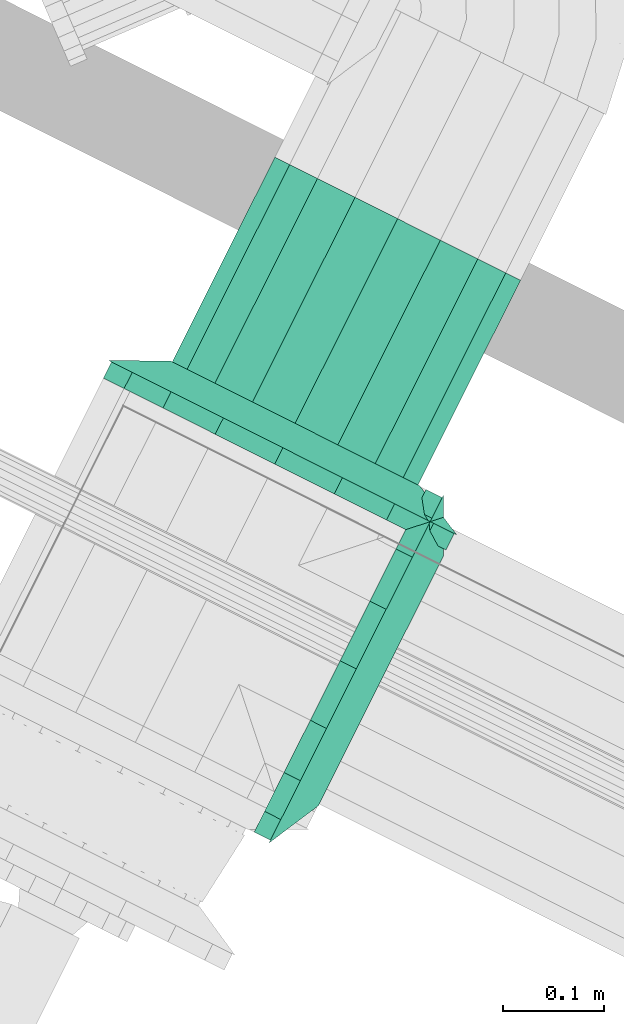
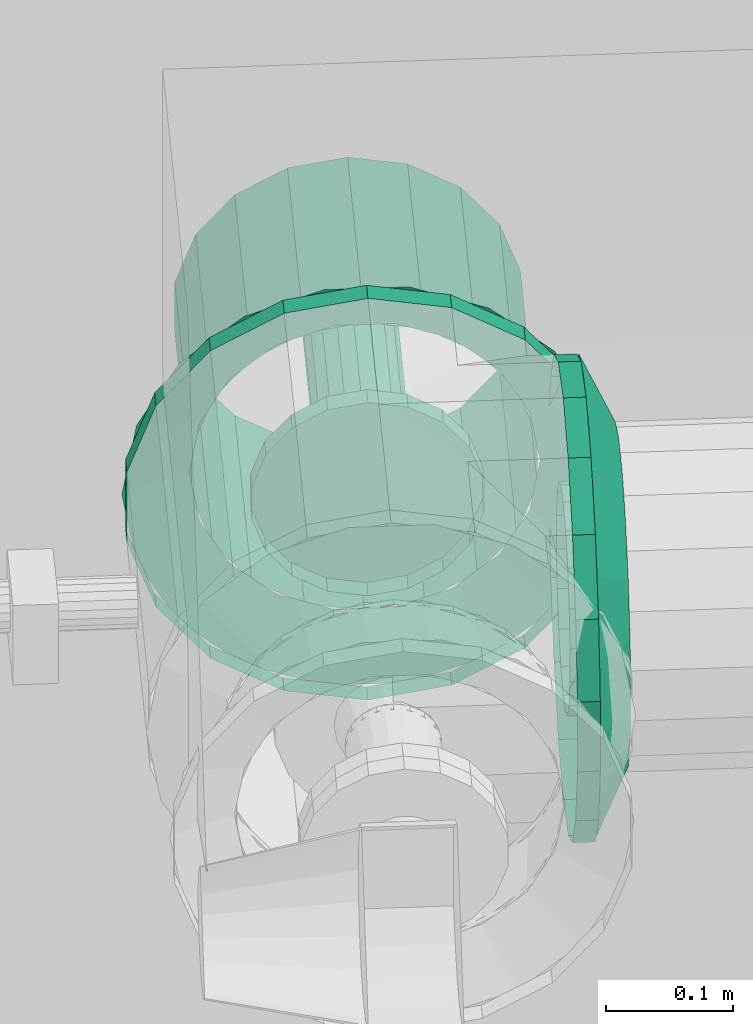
# One storey, part 150 of 206: 2 flow fittings, 1 flow segment.
"""IFC2X3 building model written with IfcOpenShell, lengths in metres."""

from ifc_helpers import new_model, si_unit, derived_unit, direction, frame, origin, place, context, subcontext, project, spatial, face_set, surface_model, source, transform, mapped, material, type_object, type_shapes, element, save


model = new_model("IFC2X3")

# Units and contexts
model_context = context("Model", 3, precision=5.2338327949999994e-05, world=origin(), true_north=direction((0.0, 1.0)))
body_context = subcontext(model_context, "Body", "Model", "MODEL_VIEW")
ifc_project = project(units=[si_unit("LENGTHUNIT", "METRE"), si_unit("AREAUNIT", "SQUARE_METRE"), si_unit("VOLUMEUNIT", "CUBIC_METRE"), si_unit("MASSUNIT", "GRAM", prefix="KILO"), si_unit("PLANEANGLEUNIT", "RADIAN"), derived_unit("THERMALTRANSMITTANCEUNIT", [(si_unit("MASSUNIT", "GRAM", prefix="KILO"), 1), (si_unit("THERMODYNAMICTEMPERATUREUNIT", "KELVIN"), -1), (si_unit("TIMEUNIT", "SECOND"), -3)])], contexts=[model_context])

# Site, building, storey
site_placement = place(None, frame((0.0, 0.0, 0.0), z_axis=(0.0, 0.0, 1.0), x_axis=(0.8939966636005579, -0.4480736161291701, 0.0)))
site = spatial("IfcSite", under=ifc_project, at=site_placement, Name="Default", CompositionType="ELEMENT")
building_placement = place(site_placement, origin())
building = spatial("IfcBuilding", under=site, at=building_placement, CompositionType="ELEMENT")
storey_placement = place(building_placement, origin())
storey = spatial("IfcBuildingStorey", under=building, at=storey_placement, Name="Erdgeschoss", CompositionType="ELEMENT", Elevation=0.0)

# Flow fittings
ifc_material = material(Name="IfcSurfaceStyle #1741")
distribution_element_type_1 = type_object("IfcDistributionElementType", Name="Flansch 326950:Flansch 326950", material=ifc_material)
shared_shape_1 = source(origin(), body_context, "Body", "SurfaceModel", [
    surface_model("IfcFaceBasedSurfaceModel", [(30.10512798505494, 9.70741948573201, 2.2215), (30.10512798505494, 9.739056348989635, 2.2270784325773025), (30.123127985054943, 9.739056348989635, 2.2270784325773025), (30.123127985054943, 9.70741948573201, 2.2215), (30.10512798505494, 9.766877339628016, 2.243140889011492), (30.123127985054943, 9.766877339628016, 2.243140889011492), (30.10512798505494, 9.787526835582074, 2.2677499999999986), (30.123127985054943, 9.787526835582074, 2.2677499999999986), (30.10512798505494, 9.798514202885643, 2.297937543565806), (30.123127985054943, 9.798514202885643, 2.297937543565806), (30.10512798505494, 9.798514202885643, 2.3300624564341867), (30.123127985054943, 9.798514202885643, 2.3300624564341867), (30.10512798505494, 9.787526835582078, 2.3602499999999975), (30.123127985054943, 9.787526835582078, 2.3602499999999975), (30.10512798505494, 9.76687733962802, 2.384859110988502), (30.123127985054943, 9.76687733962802, 2.384859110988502), (30.10512798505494, 9.73905634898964, 2.4009215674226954), (30.123127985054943, 9.73905634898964, 2.4009215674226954), (30.10512798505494, 9.707419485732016, 2.4065), (30.123127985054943, 9.707419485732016, 2.4065), (30.10512798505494, 9.675782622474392, 2.4009215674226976), (30.123127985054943, 9.675782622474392, 2.4009215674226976), (30.10512798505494, 9.647961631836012, 2.3848591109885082), (30.123127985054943, 9.647961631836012, 2.3848591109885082), (30.10512798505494, 9.627312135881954, 2.3602500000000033), (30.123127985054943, 9.627312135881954, 2.3602500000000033), (30.10512798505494, 9.616324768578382, 2.330062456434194), (30.123127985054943, 9.616324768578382, 2.330062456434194), (30.10512798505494, 9.616324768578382, 2.297937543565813), (30.123127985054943, 9.616324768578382, 2.297937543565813), (30.10512798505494, 9.627312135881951, 2.267750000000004), (30.123127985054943, 9.627312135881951, 2.267750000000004), (30.10512798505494, 9.647961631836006, 2.2431408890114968), (30.123127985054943, 9.647961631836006, 2.2431408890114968), (30.10512798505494, 9.675782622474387, 2.227078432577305), (30.123127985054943, 9.675782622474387, 2.227078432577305), (30.123127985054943, 9.707419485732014, 2.314), (30.123127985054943, 9.752419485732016, 2.313999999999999), (30.123127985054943, 9.749705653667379, 2.3293909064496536), (30.15012798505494, 9.743174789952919, 2.327013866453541), (30.15012798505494, 9.745469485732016, 2.3139999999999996), (30.123127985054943, 9.741891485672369, 2.3429254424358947), (30.15012798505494, 9.736567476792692, 2.338458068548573), (30.123127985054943, 9.729919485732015, 2.3529711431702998), (30.15012798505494, 9.726444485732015, 2.3469522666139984), (30.123127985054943, 9.715233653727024, 2.358316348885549), (30.15012798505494, 9.71402679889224, 2.3514719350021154), (30.123127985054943, 9.699605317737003, 2.3583163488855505), (30.15012798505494, 9.700812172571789, 2.351471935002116), (30.123127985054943, 9.684919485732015, 2.3529711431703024), (30.15012798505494, 9.688394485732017, 2.3469522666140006), (30.123127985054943, 9.672947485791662, 2.342925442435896), (30.15012798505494, 9.67827149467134, 2.3384580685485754), (30.123127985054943, 9.665133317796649, 2.329390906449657), (30.15012798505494, 9.67166418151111, 2.3270138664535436), (30.123127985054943, 9.662419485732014, 2.3140000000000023), (30.15012798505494, 9.669369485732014, 2.3140000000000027), (30.123127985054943, 9.665133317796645, 2.298609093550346), (30.15012798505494, 9.671664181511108, 2.30098613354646), (30.123127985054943, 9.67294748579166, 2.285074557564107), (30.15012798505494, 9.678271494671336, 2.2895419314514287), (30.123127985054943, 9.684919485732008, 2.2750288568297), (30.15012798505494, 9.68839448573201, 2.281047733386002), (30.123127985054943, 9.699605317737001, 2.269683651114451), (30.15012798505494, 9.700812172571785, 2.2765280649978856), (30.123127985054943, 9.715233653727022, 2.2696836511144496), (30.15012798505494, 9.714026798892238, 2.276528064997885), (30.123127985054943, 9.72991948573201, 2.2750288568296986), (30.15012798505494, 9.726444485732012, 2.2810477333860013), (30.123127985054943, 9.741891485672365, 2.285074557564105), (30.15012798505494, 9.736567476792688, 2.2895419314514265), (30.123127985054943, 9.749705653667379, 2.2986090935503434), (30.15012798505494, 9.743174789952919, 2.3009861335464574), (30.10512798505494, 9.707419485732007, 2.1215000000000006), (30.10512798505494, 9.7732583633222, 2.133109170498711), (30.123127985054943, 9.7732583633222, 2.133109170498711), (30.123127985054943, 9.707419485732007, 2.1215000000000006), (30.10512798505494, 9.831156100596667, 2.1665364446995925), (30.123127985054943, 9.831156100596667, 2.1665364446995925), (30.10512798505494, 9.874129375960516, 2.217749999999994), (30.123127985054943, 9.874129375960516, 2.217749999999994), (30.10512798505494, 9.896994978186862, 2.2805727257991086), (30.123127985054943, 9.896994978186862, 2.2805727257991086), (30.10512798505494, 9.896994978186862, 2.3474272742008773), (30.123127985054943, 9.896994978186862, 2.3474272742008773), (30.10512798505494, 9.874129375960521, 2.4102499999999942), (30.123127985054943, 9.874129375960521, 2.4102499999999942), (30.10512798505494, 9.83115610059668, 2.461463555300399), (30.123127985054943, 9.83115610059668, 2.461463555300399), (30.10512798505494, 9.77325836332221, 2.494890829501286), (30.123127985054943, 9.77325836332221, 2.494890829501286), (30.10512798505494, 9.70741948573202, 2.5065), (30.123127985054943, 9.70741948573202, 2.5065), (30.10512798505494, 9.64158060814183, 2.49489082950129), (30.123127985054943, 9.64158060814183, 2.49489082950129), (30.10512798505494, 9.583682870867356, 2.4614635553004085), (30.123127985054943, 9.583682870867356, 2.4614635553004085), (30.10512798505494, 9.54070959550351, 2.4102500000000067), (30.123127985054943, 9.54070959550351, 2.4102500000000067), (30.10512798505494, 9.517843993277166, 2.347427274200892), (30.123127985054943, 9.517843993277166, 2.347427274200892), (30.10512798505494, 9.51784399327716, 2.2805727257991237), (30.123127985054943, 9.51784399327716, 2.2805727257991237), (30.10512798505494, 9.540709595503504, 2.2177500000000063), (30.123127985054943, 9.540709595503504, 2.2177500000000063), (30.10512798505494, 9.583682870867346, 2.166536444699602), (30.123127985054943, 9.583682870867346, 2.166536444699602), (30.10512798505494, 9.641580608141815, 2.133109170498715), (30.123127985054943, 9.641580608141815, 2.133109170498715), (30.123127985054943, 9.899919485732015, 2.313999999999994), (30.123127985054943, 9.888310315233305, 2.3798388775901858), (30.15012798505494, 9.837144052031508, 2.361215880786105), (30.15012798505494, 9.845469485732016, 2.313999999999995), (30.123127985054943, 9.854883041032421, 2.4377366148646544), (30.15012798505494, 9.813171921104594, 2.4027368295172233), (30.123127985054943, 9.80366948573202, 2.480709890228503), (30.15012798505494, 9.776444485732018, 2.43355480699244), (30.123127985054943, 9.740846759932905, 2.503575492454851), (30.15012798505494, 9.73139161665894, 2.4499527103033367), (30.123127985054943, 9.673992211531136, 2.5035754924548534), (30.15012798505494, 9.683447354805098, 2.449952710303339), (30.123127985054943, 9.611169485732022, 2.4807098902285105), (30.15012798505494, 9.63839448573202, 2.433554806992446), (30.123127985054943, 9.559955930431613, 2.4377366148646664), (30.15012798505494, 9.60166705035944, 2.4027368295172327), (30.123127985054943, 9.526528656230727, 2.379838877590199), (30.15012798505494, 9.577694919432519, 2.3612158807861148), (30.123127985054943, 9.51491948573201, 2.3140000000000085), (30.15012798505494, 9.569369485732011, 2.314000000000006), (30.123127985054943, 9.526528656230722, 2.248161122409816), (30.15012798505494, 9.577694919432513, 2.266784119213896), (30.123127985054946, 9.559955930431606, 2.1902633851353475), (30.150127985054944, 9.601667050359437, 2.2252631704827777), (30.123127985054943, 9.611169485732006, 2.147290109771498), (30.15012798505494, 9.638394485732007, 2.19444519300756), (30.123127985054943, 9.67399221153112, 2.1244245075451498), (30.15012798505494, 9.683447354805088, 2.1780472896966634), (30.123127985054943, 9.740846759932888, 2.124424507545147), (30.15012798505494, 9.731391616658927, 2.178047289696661), (30.123127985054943, 9.803669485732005, 2.1472901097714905), (30.15012798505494, 9.77644448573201, 2.1944451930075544), (30.123127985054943, 9.854883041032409, 2.190263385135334), (30.15012798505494, 9.813171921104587, 2.2252631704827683), (30.123127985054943, 9.8883103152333, 2.2481611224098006), (30.15012798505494, 9.837144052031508, 2.266784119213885)], [face_set([[[0, 1, 2, 3]], [[1, 4, 5, 2]], [[4, 6, 7, 5]], [[6, 8, 9, 7]], [[8, 10, 11, 9]], [[10, 12, 13, 11]], [[12, 14, 15, 13]], [[14, 16, 17, 15]], [[16, 18, 19, 17]], [[18, 20, 21, 19]], [[20, 22, 23, 21]], [[22, 24, 25, 23]], [[24, 26, 27, 25]], [[26, 28, 29, 27]], [[28, 30, 31, 29]], [[30, 32, 33, 31]], [[32, 34, 35, 33]], [[34, 0, 3, 35]], [[36, 35, 3]], [[36, 33, 35]], [[36, 31, 33]], [[36, 29, 31]], [[36, 27, 29]], [[36, 25, 27]], [[36, 23, 25]], [[36, 21, 23]], [[36, 19, 21]], [[36, 17, 19]], [[36, 15, 17]], [[36, 13, 15]], [[36, 11, 13]], [[36, 9, 11]], [[36, 7, 9]], [[36, 5, 7]], [[36, 2, 5]], [[36, 3, 2]], [[37, 38, 39, 40]], [[38, 41, 42, 39]], [[41, 43, 44, 42]], [[43, 45, 46, 44]], [[45, 47, 48, 46]], [[47, 49, 50, 48]], [[49, 51, 52, 50]], [[51, 53, 54, 52]], [[53, 55, 56, 54]], [[55, 57, 58, 56]], [[57, 59, 60, 58]], [[59, 61, 62, 60]], [[61, 63, 64, 62]], [[63, 65, 66, 64]], [[65, 67, 68, 66]], [[67, 69, 70, 68]], [[69, 71, 72, 70]], [[71, 37, 40, 72]], [[73, 74, 75, 76]], [[74, 77, 78, 75]], [[77, 79, 80, 78]], [[79, 81, 82, 80]], [[81, 83, 84, 82]], [[83, 85, 86, 84]], [[85, 87, 88, 86]], [[87, 89, 90, 88]], [[89, 91, 92, 90]], [[91, 93, 94, 92]], [[93, 95, 96, 94]], [[95, 97, 98, 96]], [[97, 99, 100, 98]], [[99, 101, 102, 100]], [[101, 103, 104, 102]], [[103, 105, 106, 104]], [[105, 107, 108, 106]], [[107, 73, 76, 108]], [[109, 110, 111, 112]], [[110, 113, 114, 111]], [[113, 115, 116, 114]], [[115, 117, 118, 116]], [[117, 119, 120, 118]], [[119, 121, 122, 120]], [[121, 123, 124, 122]], [[123, 125, 126, 124]], [[125, 127, 128, 126]], [[127, 129, 130, 128]], [[129, 131, 132, 130]], [[131, 133, 134, 132]], [[133, 135, 136, 134]], [[135, 137, 138, 136]], [[137, 139, 140, 138]], [[139, 141, 142, 140]], [[141, 143, 144, 142]], [[143, 109, 112, 144]]])]),
])
type_shapes(distribution_element_type_1, [shared_shape_1])
flow_fitting_1_placement = place(storey_placement, origin())
element("IfcFlowFitting", 1, at=flow_fitting_1_placement, inside=storey, type_object=distribution_element_type_1, material=ifc_material, Name="Flansch", ObjectType="Flansch", context=body_context, shape_type="MappedRepresentation", body=[
    mapped(shared_shape_1, transform((0.0, 0.0, 0.0), scale=1.0)),
])
distribution_element_type_2 = type_object("IfcDistributionElementType", Name="Flansch 334538:Flansch 334538", material=ifc_material)
shared_shape_2 = source(origin(), body_context, "Body", "SurfaceModel", [
    surface_model("IfcFaceBasedSurfaceModel", [(29.960127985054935, 9.85241948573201, 2.2215), (29.92849112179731, 9.85241948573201, 2.227078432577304), (29.92849112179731, 9.87041948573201, 2.227078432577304), (29.960127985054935, 9.87041948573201, 2.2215), (29.900670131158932, 9.85241948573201, 2.243140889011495), (29.900670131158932, 9.87041948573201, 2.243140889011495), (29.880020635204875, 9.85241948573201, 2.2677499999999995), (29.880020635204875, 9.87041948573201, 2.2677499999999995), (29.869033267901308, 9.85241948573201, 2.29793754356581), (29.869033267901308, 9.87041948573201, 2.29793754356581), (29.869033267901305, 9.85241948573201, 2.3300624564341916), (29.869033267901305, 9.87041948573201, 2.3300624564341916), (29.880020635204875, 9.85241948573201, 2.3602500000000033), (29.880020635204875, 9.87041948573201, 2.3602500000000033), (29.900670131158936, 9.85241948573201, 2.384859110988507), (29.900670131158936, 9.87041948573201, 2.384859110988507), (29.928491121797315, 9.85241948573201, 2.4009215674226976), (29.928491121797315, 9.87041948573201, 2.4009215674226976), (29.960127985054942, 9.85241948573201, 2.4065), (29.960127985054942, 9.87041948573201, 2.4065), (29.991764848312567, 9.85241948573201, 2.4009215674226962), (29.991764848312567, 9.87041948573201, 2.4009215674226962), (30.019585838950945, 9.85241948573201, 2.3848591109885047), (30.019585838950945, 9.87041948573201, 2.3848591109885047), (30.040235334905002, 9.85241948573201, 2.3602500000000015), (30.040235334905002, 9.87041948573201, 2.3602500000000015), (30.051222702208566, 9.85241948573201, 2.3300624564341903), (30.051222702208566, 9.87041948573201, 2.3300624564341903), (30.051222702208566, 9.85241948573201, 2.2979375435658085), (30.051222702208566, 9.87041948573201, 2.2979375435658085), (30.040235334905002, 9.85241948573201, 2.2677499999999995), (30.040235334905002, 9.87041948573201, 2.2677499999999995), (30.019585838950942, 9.85241948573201, 2.243140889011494), (30.019585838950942, 9.87041948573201, 2.243140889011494), (29.991764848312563, 9.85241948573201, 2.2270784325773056), (29.991764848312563, 9.87041948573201, 2.2270784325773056), (29.960127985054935, 9.87041948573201, 2.314000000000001), (29.915127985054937, 9.87041948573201, 2.3140000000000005), (29.917841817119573, 9.87041948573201, 2.329390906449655), (29.924372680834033, 9.89741948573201, 2.3270138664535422), (29.922077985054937, 9.89741948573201, 2.3140000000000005), (29.925655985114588, 9.87041948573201, 2.3429254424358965), (29.93097999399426, 9.89741948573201, 2.338458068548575), (29.93762798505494, 9.87041948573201, 2.352971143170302), (29.941102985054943, 9.89741948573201, 2.3469522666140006), (29.95231381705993, 9.87041948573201, 2.3583163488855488), (29.953520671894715, 9.89741948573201, 2.3514719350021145), (29.96794215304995, 9.87041948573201, 2.35831634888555), (29.966735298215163, 9.89741948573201, 2.3514719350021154), (29.98262798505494, 9.87041948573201, 2.3529711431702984), (29.979152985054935, 9.89741948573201, 2.3469522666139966), (29.99459998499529, 9.87041948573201, 2.3429254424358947), (29.989275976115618, 9.89741948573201, 2.3384580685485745), (30.00241415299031, 9.87041948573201, 2.329390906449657), (29.99588328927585, 9.89741948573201, 2.3270138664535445), (30.00512798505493, 9.87041948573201, 2.314), (29.99817798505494, 9.89741948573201, 2.314), (30.002414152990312, 9.870419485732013, 2.298609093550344), (29.99588328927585, 9.897419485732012, 2.3009861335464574), (29.99459998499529, 9.87041948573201, 2.285074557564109), (29.989275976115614, 9.89741948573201, 2.2895419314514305), (29.98262798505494, 9.87041948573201, 2.275028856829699), (29.979152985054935, 9.89741948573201, 2.281047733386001), (29.96794215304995, 9.87041948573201, 2.2696836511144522), (29.966735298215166, 9.89741948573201, 2.276528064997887), (29.952313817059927, 9.87041948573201, 2.269683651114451), (29.95352067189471, 9.89741948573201, 2.276528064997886), (29.93762798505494, 9.87041948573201, 2.2750288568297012), (29.941102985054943, 9.89741948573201, 2.281047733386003), (29.925655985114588, 9.87041948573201, 2.2850745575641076), (29.93097999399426, 9.89741948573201, 2.2895419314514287), (29.917841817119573, 9.87041948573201, 2.298609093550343), (29.924372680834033, 9.89741948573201, 2.3009861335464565), (29.960127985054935, 9.85241948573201, 2.1214999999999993), (29.894289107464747, 9.85241948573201, 2.133109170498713), (29.894289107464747, 9.87041948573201, 2.133109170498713), (29.960127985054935, 9.87041948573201, 2.1214999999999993), (29.836391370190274, 9.85241948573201, 2.1665364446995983), (29.836391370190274, 9.87041948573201, 2.1665364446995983), (29.793418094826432, 9.85241948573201, 2.2177499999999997), (29.793418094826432, 9.87041948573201, 2.2177499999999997), (29.770552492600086, 9.85241948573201, 2.280572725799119), (29.770552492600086, 9.87041948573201, 2.280572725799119), (29.770552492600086, 9.85241948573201, 2.347427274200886), (29.770552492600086, 9.87041948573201, 2.347427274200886), (29.793418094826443, 9.85241948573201, 2.4102500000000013), (29.793418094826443, 9.87041948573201, 2.4102500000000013), (29.83639137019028, 9.85241948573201, 2.461463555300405), (29.83639137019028, 9.87041948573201, 2.461463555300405), (29.894289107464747, 9.85241948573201, 2.4948908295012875), (29.894289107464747, 9.87041948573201, 2.4948908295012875), (29.960127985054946, 9.85241948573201, 2.5064999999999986), (29.960127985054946, 9.87041948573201, 2.5065), (30.025966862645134, 9.85241948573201, 2.4948908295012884), (30.025966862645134, 9.87041948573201, 2.4948908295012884), (30.083864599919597, 9.85241948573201, 2.4614635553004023), (30.083864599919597, 9.87041948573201, 2.4614635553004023), (30.126837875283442, 9.85241948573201, 2.4102500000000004), (30.126837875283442, 9.87041948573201, 2.4102500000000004), (30.149703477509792, 9.85241948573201, 2.347427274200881), (30.149703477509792, 9.87041948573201, 2.347427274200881), (30.149703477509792, 9.85241948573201, 2.280572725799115), (30.149703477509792, 9.87041948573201, 2.280572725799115), (30.126837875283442, 9.85241948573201, 2.2177499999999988), (30.126837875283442, 9.87041948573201, 2.2177499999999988), (30.083864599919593, 9.85241948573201, 2.166536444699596), (30.083864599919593, 9.87041948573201, 2.166536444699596), (30.025966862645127, 9.85241948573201, 2.133109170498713), (30.025966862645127, 9.87041948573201, 2.133109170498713), (29.767627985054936, 9.870419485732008, 2.3140000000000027), (29.77923715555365, 9.870419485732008, 2.3798388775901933), (29.830403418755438, 9.897419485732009, 2.36121588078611), (29.822077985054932, 9.897419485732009, 2.3140000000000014), (29.812664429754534, 9.870419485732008, 2.43773661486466), (29.854375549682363, 9.897419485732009, 2.4027368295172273), (29.86387798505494, 9.870419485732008, 2.4807098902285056), (29.891102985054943, 9.897419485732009, 2.4335548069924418), (29.926700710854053, 9.87041948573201, 2.50357549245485), (29.936155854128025, 9.89741948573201, 2.449952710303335), (29.993555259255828, 9.87041948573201, 2.503575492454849), (29.98410011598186, 9.89741948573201, 2.449952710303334), (30.05637798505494, 9.87041948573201, 2.480709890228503), (30.02915298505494, 9.89741948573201, 2.4335548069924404), (30.107591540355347, 9.870419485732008, 2.4377366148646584), (30.06588042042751, 9.897419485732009, 2.402736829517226), (30.14101881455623, 9.87041948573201, 2.3798388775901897), (30.089852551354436, 9.89741948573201, 2.3612158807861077), (30.152627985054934, 9.870419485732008, 2.3139999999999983), (30.098177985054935, 9.897419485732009, 2.3139999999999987), (30.14101881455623, 9.870419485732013, 2.2481611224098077), (30.089852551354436, 9.897419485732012, 2.26678411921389), (30.10759154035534, 9.87041948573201, 2.19026338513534), (30.065880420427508, 9.89741948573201, 2.2252631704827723), (30.056377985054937, 9.87041948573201, 2.147290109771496), (30.029152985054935, 9.89741948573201, 2.194445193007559), (29.993555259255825, 9.87041948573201, 2.1244245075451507), (29.98410011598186, 9.89741948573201, 2.178047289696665), (29.92670071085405, 9.87041948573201, 2.1244245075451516), (29.936155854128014, 9.89741948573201, 2.1780472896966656), (29.86387798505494, 9.87041948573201, 2.147290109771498), (29.891102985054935, 9.89741948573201, 2.19444519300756), (29.812664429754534, 9.870419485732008, 2.1902633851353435), (29.85437554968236, 9.897419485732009, 2.225263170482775), (29.77923715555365, 9.87041948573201, 2.2481611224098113), (29.83040341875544, 9.89741948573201, 2.2667841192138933)], [face_set([[[0, 1, 2, 3]], [[1, 4, 5, 2]], [[4, 6, 7, 5]], [[6, 8, 9, 7]], [[8, 10, 11, 9]], [[10, 12, 13, 11]], [[12, 14, 15, 13]], [[14, 16, 17, 15]], [[16, 18, 19, 17]], [[18, 20, 21, 19]], [[20, 22, 23, 21]], [[22, 24, 25, 23]], [[24, 26, 27, 25]], [[26, 28, 29, 27]], [[28, 30, 31, 29]], [[30, 32, 33, 31]], [[32, 34, 35, 33]], [[34, 0, 3, 35]], [[36, 35, 3]], [[36, 33, 35]], [[36, 31, 33]], [[36, 29, 31]], [[36, 27, 29]], [[36, 25, 27]], [[36, 23, 25]], [[36, 21, 23]], [[36, 19, 21]], [[36, 17, 19]], [[36, 15, 17]], [[36, 13, 15]], [[36, 11, 13]], [[36, 9, 11]], [[36, 7, 9]], [[36, 5, 7]], [[36, 2, 5]], [[36, 3, 2]], [[37, 38, 39, 40]], [[38, 41, 42, 39]], [[41, 43, 44, 42]], [[43, 45, 46, 44]], [[45, 47, 48, 46]], [[47, 49, 50, 48]], [[49, 51, 52, 50]], [[51, 53, 54, 52]], [[53, 55, 56, 54]], [[55, 57, 58, 56]], [[57, 59, 60, 58]], [[59, 61, 62, 60]], [[61, 63, 64, 62]], [[63, 65, 66, 64]], [[65, 67, 68, 66]], [[67, 69, 70, 68]], [[69, 71, 72, 70]], [[71, 37, 40, 72]], [[73, 74, 75, 76]], [[74, 77, 78, 75]], [[77, 79, 80, 78]], [[79, 81, 82, 80]], [[81, 83, 84, 82]], [[83, 85, 86, 84]], [[85, 87, 88, 86]], [[87, 89, 90, 88]], [[89, 91, 92, 90]], [[91, 93, 94, 92]], [[93, 95, 96, 94]], [[95, 97, 98, 96]], [[97, 99, 100, 98]], [[99, 101, 102, 100]], [[101, 103, 104, 102]], [[103, 105, 106, 104]], [[105, 107, 108, 106]], [[107, 73, 76, 108]], [[109, 110, 111, 112]], [[110, 113, 114, 111]], [[113, 115, 116, 114]], [[115, 117, 118, 116]], [[117, 119, 120, 118]], [[119, 121, 122, 120]], [[121, 123, 124, 122]], [[123, 125, 126, 124]], [[125, 127, 128, 126]], [[127, 129, 130, 128]], [[129, 131, 132, 130]], [[131, 133, 134, 132]], [[133, 135, 136, 134]], [[135, 137, 138, 136]], [[137, 139, 140, 138]], [[139, 141, 142, 140]], [[141, 143, 144, 142]], [[143, 109, 112, 144]]])]),
])
type_shapes(distribution_element_type_2, [shared_shape_2])
flow_fitting_2_placement = place(storey_placement, origin())
element("IfcFlowFitting", 2, at=flow_fitting_2_placement, inside=storey, type_object=distribution_element_type_2, material=ifc_material, Name="Flansch", ObjectType="Flansch", context=body_context, shape_type="MappedRepresentation", body=[
    mapped(shared_shape_2, transform((0.0, 0.0, 0.0), scale=1.0)),
])

# Flow segment
distribution_element_type_3 = type_object("IfcDistributionElementType", Name="Stahlrohr nach DIN 2448 334561:Stahlrohr nach DIN 2448 334561", material=ifc_material)
shared_shape_3 = source(origin(), body_context, "Body", "SurfaceModel", [
    surface_model("IfcFaceBasedSurfaceModel", [(29.960127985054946, 9.89741948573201, 2.2759499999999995), (29.947114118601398, 9.89741948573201, 2.278244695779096), (29.947114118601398, 10.12394336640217, 2.278244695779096), (29.960127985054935, 10.12394336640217, 2.2759500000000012), (29.935669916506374, 9.89741948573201, 2.2848520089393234), (29.935669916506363, 10.12394336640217, 2.284852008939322), (29.927175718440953, 9.89741948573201, 2.2949750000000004), (29.92717571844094, 10.12394336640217, 2.294974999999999), (29.92265605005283, 9.89741948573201, 2.307392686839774), (29.92265605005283, 10.12394336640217, 2.3073926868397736), (29.922656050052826, 9.89741948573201, 2.320607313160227), (29.922656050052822, 10.12394336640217, 2.320607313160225), (29.927175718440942, 9.89741948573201, 2.3330249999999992), (29.927175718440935, 10.12394336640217, 2.333024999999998), (29.935669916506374, 9.89741948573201, 2.3431479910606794), (29.93566991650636, 10.12394336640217, 2.343147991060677), (29.947114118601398, 9.89741948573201, 2.349755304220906), (29.947114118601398, 10.12394336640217, 2.349755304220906), (29.960127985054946, 9.89741948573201, 2.3520499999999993), (29.960127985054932, 10.12394336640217, 2.3520500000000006), (29.973141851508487, 9.89741948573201, 2.3497553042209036), (29.973141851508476, 10.12394336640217, 2.349755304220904), (29.98458605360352, 9.89741948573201, 2.343147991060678), (29.98458605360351, 10.12394336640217, 2.343147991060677), (29.993080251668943, 9.89741948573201, 2.333025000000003), (29.99308025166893, 10.12394336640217, 2.333025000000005), (29.997599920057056, 9.89741948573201, 2.320607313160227), (29.997599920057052, 10.12394336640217, 2.3206073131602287), (29.997599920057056, 9.89741948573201, 2.3073926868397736), (29.997599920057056, 10.12394336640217, 2.3073926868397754), (29.993080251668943, 9.89741948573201, 2.294974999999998), (29.993080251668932, 10.12394336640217, 2.294974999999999), (29.98458605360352, 9.89741948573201, 2.284852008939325), (29.98458605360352, 10.12394336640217, 2.284852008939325), (29.973141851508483, 9.89741948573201, 2.278244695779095), (29.97314185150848, 10.12394336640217, 2.2782446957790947), (29.960127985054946, 9.89741948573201, 2.1759499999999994), (29.912912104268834, 9.89741948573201, 2.184275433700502), (29.91291210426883, 10.12394336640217, 2.184275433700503), (29.960127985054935, 10.12394336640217, 2.175950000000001), (29.87139115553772, 9.89741948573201, 2.2082475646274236), (29.871391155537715, 10.12394336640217, 2.208247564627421), (29.840573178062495, 9.89741948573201, 2.244974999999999), (29.840573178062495, 10.12394336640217, 2.2449749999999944), (29.824175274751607, 9.89741948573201, 2.2900278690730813), (29.8241752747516, 10.12394336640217, 2.290027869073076), (29.824175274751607, 9.89741948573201, 2.3379721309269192), (29.8241752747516, 10.12394336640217, 2.337972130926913), (29.8405731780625, 9.89741948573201, 2.3830250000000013), (29.840573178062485, 10.12394336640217, 2.3830249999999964), (29.871391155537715, 9.89741948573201, 2.4197524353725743), (29.8713911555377, 10.12394336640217, 2.4197524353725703), (29.912912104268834, 9.89741948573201, 2.4437245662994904), (29.912912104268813, 10.12394336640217, 2.443724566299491), (29.960127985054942, 9.89741948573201, 2.45205), (29.96012798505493, 10.12394336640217, 2.4520500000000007), (30.007343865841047, 9.89741948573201, 2.443724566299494), (30.00734386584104, 10.12394336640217, 2.4437245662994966), (30.048864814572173, 9.89741948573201, 2.4197524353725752), (30.04886481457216, 10.12394336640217, 2.4197524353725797), (30.079682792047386, 9.89741948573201, 2.3830249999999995), (30.079682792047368, 10.12394336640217, 2.3830250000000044), (30.09608069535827, 9.89741948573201, 2.3379721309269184), (30.09608069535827, 10.12394336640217, 2.337972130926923), (30.09608069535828, 9.89741948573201, 2.2900278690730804), (30.096080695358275, 10.12394336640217, 2.2900278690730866), (30.079682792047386, 9.89741948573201, 2.244975), (30.079682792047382, 10.12394336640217, 2.2449750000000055), (30.048864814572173, 9.89741948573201, 2.208247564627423), (30.048864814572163, 10.12394336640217, 2.208247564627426), (30.00734386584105, 9.89741948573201, 2.1842754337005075), (30.00734386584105, 10.12394336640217, 2.184275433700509)], [face_set([[[0, 1, 2, 3]], [[1, 4, 5, 2]], [[4, 6, 7, 5]], [[6, 8, 9, 7]], [[8, 10, 11, 9]], [[10, 12, 13, 11]], [[12, 14, 15, 13]], [[14, 16, 17, 15]], [[16, 18, 19, 17]], [[18, 20, 21, 19]], [[20, 22, 23, 21]], [[22, 24, 25, 23]], [[24, 26, 27, 25]], [[26, 28, 29, 27]], [[28, 30, 31, 29]], [[30, 32, 33, 31]], [[32, 34, 35, 33]], [[34, 0, 3, 35]], [[36, 37, 38, 39]], [[37, 40, 41, 38]], [[40, 42, 43, 41]], [[42, 44, 45, 43]], [[44, 46, 47, 45]], [[46, 48, 49, 47]], [[48, 50, 51, 49]], [[50, 52, 53, 51]], [[52, 54, 55, 53]], [[54, 56, 57, 55]], [[56, 58, 59, 57]], [[58, 60, 61, 59]], [[60, 62, 63, 61]], [[62, 64, 65, 63]], [[64, 66, 67, 65]], [[66, 68, 69, 67]], [[68, 70, 71, 69]], [[70, 36, 39, 71]]])]),
])
type_shapes(distribution_element_type_3, [shared_shape_3])
flow_segment_placement = place(storey_placement, origin())
element("IfcFlowSegment", 3, at=flow_segment_placement, inside=storey, type_object=distribution_element_type_3, material=ifc_material, Name="Stahlrohr nach DIN 2448", ObjectType="Stahlrohr nach DIN 2448", context=body_context, shape_type="MappedRepresentation", body=[
    mapped(shared_shape_3, transform((0.0, 0.0, 0.0), scale=1.0)),
])

save(model, "model.ifc")
